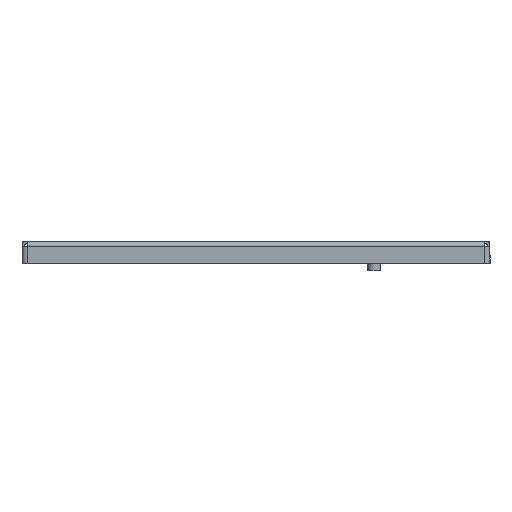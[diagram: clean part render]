
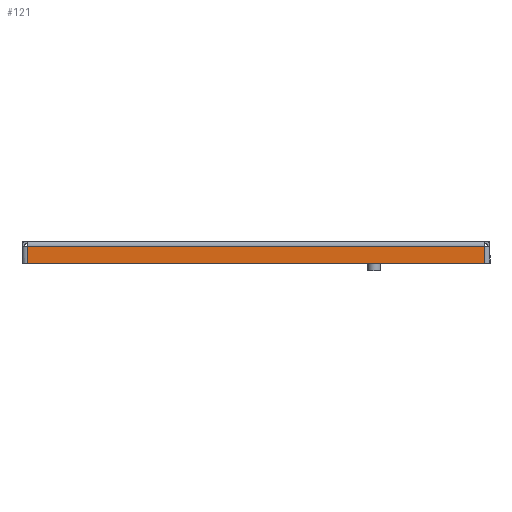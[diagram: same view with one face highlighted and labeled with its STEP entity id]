
A CAD part, left-side view. The second image highlights one B-rep face of the part: STEP entity #121.
In plain terms, the highlighted planar face has unit normal (-1, 0, 0).
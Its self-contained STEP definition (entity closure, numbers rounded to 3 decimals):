
#121=ADVANCED_FACE('',(#905),#907,.F.);
#905=FACE_BOUND('',#906,.T.);
#906=EDGE_LOOP('',(#3554,#3555,#3556,#3557));
#907=PLANE('',#908);
#908=AXIS2_PLACEMENT_3D('',#909,#910,#911);
#909=CARTESIAN_POINT('',(-193.2,0.,0.));
#910=DIRECTION('',(1.,0.,0.));
#911=DIRECTION('',(0.,0.,-1.));
#3554=ORIENTED_EDGE('',*,*,#5071,.F.);
#3555=ORIENTED_EDGE('',*,*,#5073,.F.);
#3556=ORIENTED_EDGE('',*,*,#5074,.F.);
#3557=ORIENTED_EDGE('',*,*,#5075,.F.);
#5071=EDGE_CURVE('',#6265,#6258,#6269,.T.);
#5073=EDGE_CURVE('',#6271,#6265,#6272,.T.);
#5074=EDGE_CURVE('',#6273,#6271,#6274,.T.);
#5075=EDGE_CURVE('',#6258,#6273,#6275,.T.);
#6258=VERTEX_POINT('',#8567);
#6265=VERTEX_POINT('',#8587);
#6269=LINE('',#8598,#8599);
#6271=VERTEX_POINT('',#8604);
#6272=LINE('',#8605,#8606);
#6273=VERTEX_POINT('',#8608);
#6274=LINE('',#8609,#8610);
#6275=LINE('',#8612,#8613);
#8567=CARTESIAN_POINT('',(-193.2,-145.3,-3.2));
#8587=CARTESIAN_POINT('',(-193.2,145.3,-3.2));
#8598=CARTESIAN_POINT('',(-193.2,145.3,-3.2));
#8599=VECTOR('',#8600,1.);
#8600=DIRECTION('',(0.,-1.,0.));
#8604=CARTESIAN_POINT('',(-193.2,145.3,-14.));
#8605=CARTESIAN_POINT('',(-193.2,145.3,-14.));
#8606=VECTOR('',#8607,1.);
#8607=DIRECTION('',(0.,0.,1.));
#8608=CARTESIAN_POINT('',(-193.2,-145.3,-14.));
#8609=CARTESIAN_POINT('',(-193.2,-145.3,-14.));
#8610=VECTOR('',#8611,1.);
#8611=DIRECTION('',(0.,1.,0.));
#8612=CARTESIAN_POINT('',(-193.2,-145.3,-3.2));
#8613=VECTOR('',#8614,1.);
#8614=DIRECTION('',(0.,0.,-1.));
